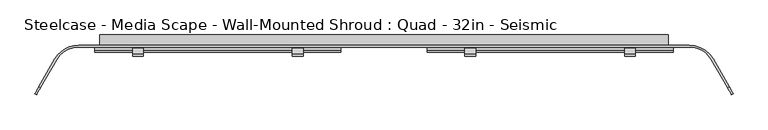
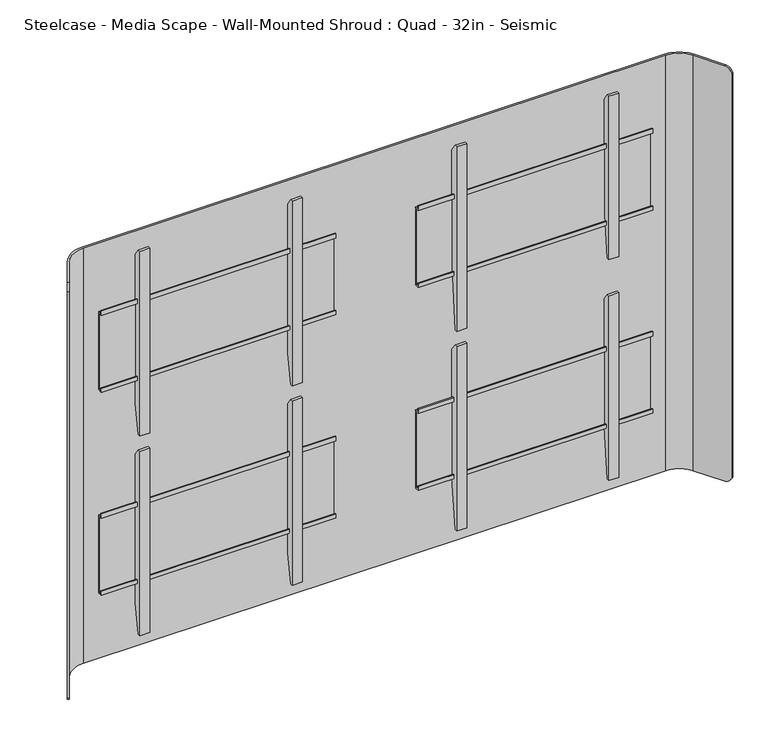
"""IFC4 building model written with IfcOpenShell, lengths in millimetres: furniture geometry, Steelcase - Media Scape - Wall-Mounted Shroud : Quad - 32in - Seismic."""

import ifcopenshell
import ifcopenshell.guid

model = None  # the IFC model being written
_history = None  # IfcOwnerHistory: only IFC2X3 demands one
_inside = {}  # id of a spatial element -> (the spatial element, [elements in it])
_under = {}  # id of a project, library or spatial element -> (it, [spatial elements below it])
_declared = {}  # id of a project -> (the project, [libraries it declares])
_typed = {}  # id of a type object -> (the type object, [elements of that type])
_made_of = {}  # id of a material, layer set ... -> (it, [elements and type objects made of it])


def new_model(schema):
    """Start an empty IFC model of exactly this schema.

    Asked for "IFC4X3", IfcOpenShell would pick the latest addendum, in which some entities
    have other attributes; the version numbers below select the first issue.
    IFC2X3 requires an IfcOwnerHistory on every rooted entity: one is made here for all.
    """
    global model, _history
    if schema == "IFC4X3":
        model = ifcopenshell.file(schema_version=(4, 3, 0, 0))
    else:
        model = ifcopenshell.file(schema=schema)
    _inside.clear()
    _under.clear()
    _declared.clear()
    _typed.clear()
    _made_of.clear()
    _history = None
    if model.schema == "IFC2X3":
        org = make("IfcOrganization", Name="unknown")
        user = make(
            "IfcPersonAndOrganization",
            ThePerson=make("IfcPerson", FamilyName="unknown"),
            TheOrganization=org,
        )
        app = make(
            "IfcApplication",
            ApplicationDeveloper=org,
            Version="unknown",
            ApplicationFullName="unknown",
            ApplicationIdentifier="unknown",
        )
        _history = make(
            "IfcOwnerHistory",
            OwningUser=user,
            OwningApplication=app,
            ChangeAction="ADDED",
            CreationDate=0,
        )
    return model


def make(cls, **values):
    """One entity of the class cls with the attributes given. An attribute that is None is left unset."""
    return model.create_entity(
        cls, **{name: value for name, value in values.items() if value is not None}
    )


def rooted(cls, **values):
    """An entity with a GlobalId (a new one), such as an element, a storey or a relation."""
    return make(cls, GlobalId=ifcopenshell.guid.new(), OwnerHistory=_history, **values)


def si_unit(unit_type, name, prefix=None):
    """IfcSIUnit, for example si_unit("LENGTHUNIT", "METRE", prefix="MILLI")."""
    return make("IfcSIUnit", UnitType=unit_type, Prefix=prefix, Name=name)


def assignment(units):
    """IfcUnitAssignment: the units of a project."""
    return None if units is None else make("IfcUnitAssignment", Units=units)


def point(xyz):
    """IfcCartesianPoint."""
    return None if xyz is None else make("IfcCartesianPoint", Coordinates=xyz)


def direction(xyz):
    """IfcDirection."""
    return None if xyz is None else make("IfcDirection", DirectionRatios=xyz)


def frame(location, z_axis=None, x_axis=None):
    """IfcAxis2Placement3D, a coordinate frame: its origin and axes. An axis left out is left unset."""
    return make(
        "IfcAxis2Placement3D",
        Location=point(location),
        Axis=direction(z_axis),
        RefDirection=direction(x_axis),
    )


def origin():
    """The frame at (0, 0, 0) with its axes left unset."""
    return frame((0.0, 0.0, 0.0))


def place(relative_to, where):
    """IfcLocalPlacement: puts the frame where relative to a parent placement (None: the world)."""
    return make(
        "IfcLocalPlacement", PlacementRelTo=relative_to, RelativePlacement=where
    )


def context(
    kind, dimensions, precision=None, world=None, true_north=None, identifier=None
):
    """IfcGeometricRepresentationContext, for example the 3D "Model" context."""
    return make(
        "IfcGeometricRepresentationContext",
        ContextIdentifier=identifier,
        ContextType=kind,
        CoordinateSpaceDimension=dimensions,
        Precision=precision,
        WorldCoordinateSystem=world,
        TrueNorth=true_north,
    )


def project(units=None, contexts=None):
    """IfcProject with its units and contexts."""
    return rooted(
        "IfcProject",
        Name="project",
        RepresentationContexts=contexts,
        UnitsInContext=assignment(units),
    )


def spatial(cls, under=None, at=None, **own):
    """A site, building, storey or space (cls), placed at a placement, below another one or the project."""
    s = rooted(cls, ObjectPlacement=at, **own)
    if under is not None:
        _under.setdefault(under.id(), (under, []))[1].append(s)
    return s


def polyline(points):
    """IfcPolyline through the points."""
    return make("IfcPolyline", Points=[point(p) for p in points])


def circle_curve(where, radius):
    """IfcCircle in the frame where."""
    return make("IfcCircle", Position=where, Radius=radius)


def outline(outer, holes=None, kind="AREA"):
    """IfcArbitraryClosedProfileDef: a profile drawn as a closed curve; with holes, ...WithVoids."""
    if holes is None:
        return make("IfcArbitraryClosedProfileDef", ProfileType=kind, OuterCurve=outer)
    return make(
        "IfcArbitraryProfileDefWithVoids",
        ProfileType=kind,
        OuterCurve=outer,
        InnerCurves=holes,
    )


def extrude(swept, where, along, depth):
    """IfcExtrudedAreaSolid: the profile swept, set in the frame where, extruded along a direction by depth."""
    return make(
        "IfcExtrudedAreaSolid",
        SweptArea=swept,
        Position=where,
        ExtrudedDirection=direction(along),
        Depth=depth,
    )


def shape(context_of_items, identifier, shape_type, items):
    """IfcShapeRepresentation: the items that make up one representation, for example the "Body"."""
    return make(
        "IfcShapeRepresentation",
        ContextOfItems=context_of_items,
        RepresentationIdentifier=identifier,
        RepresentationType=shape_type,
        Items=items,
    )


def source(mapping_origin, context_of_items, identifier, shape_type, items):
    """IfcRepresentationMap: a shape defined once, which mapped items show again and again."""
    return make(
        "IfcRepresentationMap",
        MappingOrigin=mapping_origin,
        MappedRepresentation=shape(context_of_items, identifier, shape_type, items),
    )


def transform(
    local_origin,
    x_axis=None,
    y_axis=None,
    z_axis=None,
    scale=None,
    scale2=None,
    scale3=None,
    uniform=True,
):
    """IfcCartesianTransformationOperator3D, or its non-uniform kind. x_axis, y_axis, z_axis: its Axis1, 2, 3."""
    if uniform:
        return make(
            "IfcCartesianTransformationOperator3D",
            Axis1=direction(x_axis),
            Axis2=direction(y_axis),
            LocalOrigin=point(local_origin),
            Scale=scale,
            Axis3=direction(z_axis),
        )
    return make(
        "IfcCartesianTransformationOperator3DnonUniform",
        Axis1=direction(x_axis),
        Axis2=direction(y_axis),
        LocalOrigin=point(local_origin),
        Scale=scale,
        Axis3=direction(z_axis),
        Scale2=scale2,
        Scale3=scale3,
    )


def mapped(mapping_source, mapping_target):
    """IfcMappedItem: shows the shape of a source again, moved by a transform."""
    return make(
        "IfcMappedItem", MappingSource=mapping_source, MappingTarget=mapping_target
    )


def made_of(thing, what):
    """Note that an element or type object is made of a material, layer set ...; save() writes the relation."""
    if what is not None:
        _made_of.setdefault(what.id(), (what, []))[1].append(thing)
    return thing


def element(
    cls,
    number,
    at=None,
    inside=None,
    cuts=None,
    type_object=None,
    material=None,
    context=None,
    identifier="Body",
    shape_type=None,
    held_by="IfcProductDefinitionShape",
    body=None,
    shapes=None,
    **own,
):
    """One element of the class cls, such as IfcWall. Its Tag is "e" and its number.

    at: its placement. inside: the storey or other place that contains it. cuts: it is an
    opening in that element (IfcRelVoidsElement). A single representation is given by context,
    identifier, shape_type and body (its items); several are given by shapes. held_by: the class
    of the entity that holds the representations. save() writes the other relations.
    """
    e = rooted(cls, Tag="e%d" % number, ObjectPlacement=at, **own)
    if body is not None:
        shapes = [shape(context, identifier, shape_type, body)]
    if shapes is not None:
        e.Representation = make(held_by, Representations=shapes)
    if inside is not None:
        _inside.setdefault(inside.id(), (inside, []))[1].append(e)
    if cuts is not None:
        rooted(
            "IfcRelVoidsElement", RelatingBuildingElement=cuts, RelatedOpeningElement=e
        )
    if type_object is not None:
        _typed.setdefault(type_object.id(), (type_object, []))[1].append(e)
    return made_of(e, material)


def aggregate(whole, parts):
    """IfcRelAggregates: a whole, such as a stair, and the parts it consists of."""
    return rooted("IfcRelAggregates", RelatingObject=whole, RelatedObjects=parts)


def save(model, path):
    """Write the relations noted so far, then the file.

    IfcRelAggregates (storeys below a building ...), IfcRelContainedInSpatialStructure (elements
    in a storey), IfcRelDefinesByType, IfcRelAssociatesMaterial and IfcRelDeclares: one each for
    every whole, place, type object, material and project.
    """
    for whole, parts in _under.values():
        aggregate(whole, parts)
    for where, things in _inside.values():
        rooted(
            "IfcRelContainedInSpatialStructure",
            RelatedElements=things,
            RelatingStructure=where,
        )
    for kind, things in _typed.values():
        rooted("IfcRelDefinesByType", RelatedObjects=things, RelatingType=kind)
    for what, things in _made_of.values():
        rooted("IfcRelAssociatesMaterial", RelatedObjects=things, RelatingMaterial=what)
    for by, libraries in _declared.values():
        rooted("IfcRelDeclares", RelatingContext=by, RelatedDefinitions=libraries)
    model.write(path)


def plane_surface(at):
    """IfcPlane: the flat surface through the origin of the frame at, square to its z axis."""
    return make("IfcPlane", Position=at)


def cylinder_surface(at, radius):
    """IfcCylindricalSurface: all points at the distance radius from the z axis of the frame at."""
    return make("IfcCylindricalSurface", Position=at, Radius=radius)


def revolved_surface(curve, axis_point, axis_direction):
    """IfcSurfaceOfRevolution: the curve turned about the line through axis_point along axis_direction."""
    return make(
        "IfcSurfaceOfRevolution",
        SweptCurve=make("IfcArbitraryOpenProfileDef", ProfileType="CURVE", Curve=curve),
        AxisPosition=make("IfcAxis1Placement", Location=point(axis_point), Axis=direction(axis_direction)),
    )


def advanced_brep(points, edges, surfaces, faces):
    """IfcAdvancedBrep: a solid bounded by faces that lie on surfaces and meet in shared edges.

    An edge is (start, end): straight between two places in points (the first is 0);
    or (start, end, curve); or (start, end, curve, False) where it runs against its curve.
    A face is (place in surfaces, loops), or (place, loops, False) where it looks against
    its surface's normal. A loop lists edges by number (the first is 1), with a minus sign
    where the edge is run from its end to its start. The first loop is the outer one.
    """
    corners = [point(p) for p in points]
    vertices = [make("IfcVertexPoint", VertexGeometry=c) for c in corners]
    made = []
    for start, end, *more in edges:
        made.append(
            make(
                "IfcEdgeCurve",
                EdgeStart=vertices[start],
                EdgeEnd=vertices[end],
                EdgeGeometry=more[0] if more else make("IfcPolyline", Points=[corners[start], corners[end]]),
                SameSense=more[1] if len(more) > 1 else True,
            )
        )
    hull = []
    for where, loops, *sense in faces:
        bounds = []
        for j, loop in enumerate(loops):
            ring = [make("IfcOrientedEdge", EdgeElement=made[abs(k) - 1], Orientation=k > 0) for k in loop]
            bounds.append(
                make(
                    "IfcFaceOuterBound" if j == 0 else "IfcFaceBound",
                    Bound=make("IfcEdgeLoop", EdgeList=ring),
                    Orientation=True,
                )
            )
        hull.append(make("IfcAdvancedFace", Bounds=bounds, FaceSurface=surfaces[where], SameSense=sense[0] if sense else True))
    return make("IfcAdvancedBrep", Outer=make("IfcClosedShell", CfsFaces=hull))


def steelcase_media_scape_wall_mounted_shroud_quad_32in_seismic_8338c1e4(model_context):
    return source(origin(), model_context, "Body", "SolidModel", [
        extrude(outline(polyline([(-32.6531824, 1366.4960207), (-32.6531824, 1014.7806853), (-46.5069553, 878.7129758), (-53.3399828, 878.7129758), (-53.3399828, 1386.713), (-46.5596063, 1386.713), (-32.6531824, 1366.4960207)])), frame((596.9002868, 0.0, 0.0), z_axis=(1.0, 0.0, 0.0), x_axis=(0.0, 1.0, 0.0)), (0.0, 0.0, 1.0), 26.1592872),
        extrude(outline(polyline([(-32.6531824, 1366.4960207), (-32.6531824, 1014.6814666), (-46.4968533, 878.7129758), (-53.3399828, 878.7129758), (-53.3399828, 1386.713), (-46.5596063, 1386.713), (-32.6531824, 1366.4960207)])), frame((200.662426, 0.0, 0.0), z_axis=(1.0, 0.0, 0.0), x_axis=(0.0, 1.0, 0.0)), (0.0, 0.0, 1.0), 26.1592872),
        extrude(outline(polyline([(-32.6531824, 1366.5753957), (-32.6531824, 956.3408416), (-46.5049349, 878.7129758), (-53.3399828, 878.7129758), (-53.3399828, 1386.713), (-46.5050076, 1386.713), (-32.6531824, 1366.5753957)])), frame((-226.8217132, 0.0, 0.0), z_axis=(1.0, 0.0, 0.0), x_axis=(0.0, 1.0, 0.0)), (0.0, 0.0, 1.0), 26.1592872),
        extrude(outline(polyline([(-32.6531824, 1366.5753957), (-32.6531824, 956.3408416), (-46.5049349, 878.7129758), (-53.3399828, 878.7129758), (-53.3399828, 1386.713), (-46.5050076, 1386.713), (-32.6531824, 1366.5753957)])), frame((-623.059574, 0.0, 0.0), z_axis=(1.0, 0.0, 0.0), x_axis=(0.0, 1.0, 0.0)), (0.0, 0.0, 1.0), 26.1592872),
        extrude(outline(polyline([(-42.4942785, 1227.963), (-42.4942785, 1239.8754512), (-39.8272175, 1239.8754512), (-39.8272175, 1230.5372973), (-29.9720009, 1230.5372973), (-29.9720009, 1016.2849274), (-42.3164551, 1016.2849274), (-42.3164551, 1027.2267789), (-39.649394, 1027.2267789), (-39.649394, 1018.9436302), (-32.6531824, 1018.9436302), (-32.6531824, 1227.963), (-42.4942785, 1227.963)])), frame((107.061, 0.0, 0.0), z_axis=(1.0, 0.0, 0.0), x_axis=(0.0, 1.0, 0.0)), (0.0, 0.0, 1.0), 609.6),
        extrude(outline(polyline([(-42.4942785, 1227.870309), (-42.4942785, 1239.8754512), (-39.8272175, 1239.8754512), (-39.8272175, 1230.5372973), (-29.9720009, 1230.5372973), (-29.9720009, 1016.2849274), (-42.3164551, 1016.2849274), (-42.3164551, 1027.1340878), (-39.649394, 1027.1340878), (-39.649394, 1018.9436302), (-32.6531824, 1018.9436302), (-32.6531824, 1227.870309), (-42.4942785, 1227.870309)])), frame((-716.661, 0.0, 0.0), z_axis=(1.0, 0.0, 0.0), x_axis=(0.0, 1.0, 0.0)), (0.0, 0.0, 1.0), 609.6),
        extrude(outline(polyline([(-42.4942785, 1786.6306215), (-42.4942785, 1798.62487), (-39.8272175, 1798.62487), (-39.8272175, 1789.2777661), (-29.9720009, 1789.2777661), (-29.9720009, 1574.9525488), (-42.3164551, 1574.9525488), (-42.3164551, 1585.8944003), (-39.649394, 1585.8944003), (-39.649394, 1577.6173571), (-32.6531824, 1577.6173571), (-32.6531824, 1786.6306215), (-42.4942785, 1786.6306215)])), frame((107.061, 0.0, 0.0), z_axis=(1.0, 0.0, 0.0), x_axis=(0.0, 1.0, 0.0)), (0.0, 0.0, 1.0), 609.6),
        extrude(outline(polyline([(-32.6531824, 1915.8980449), (-32.6531824, 1622.6027095), (-46.5049349, 1486.5548437), (-53.3399828, 1486.5548437), (-53.3399828, 1936.1150242), (-46.5596063, 1936.1150242), (-32.6531824, 1915.8980449)])), frame((596.9002868, 0.0, 0.0), z_axis=(1.0, 0.0, 0.0), x_axis=(0.0, 1.0, 0.0)), (0.0, 0.0, 1.0), 26.1592872),
        extrude(outline(polyline([(-32.6531824, 1915.8980449), (-32.6531824, 1622.5034908), (-46.4968533, 1428.115), (-53.3399828, 1428.115), (-53.3399828, 1936.1150242), (-46.5596063, 1936.1150242), (-32.6531824, 1915.8980449)])), frame((200.662426, 0.0, 0.0), z_axis=(1.0, 0.0, 0.0), x_axis=(0.0, 1.0, 0.0)), (0.0, 0.0, 1.0), 26.1592872),
        extrude(outline(polyline([(-42.4942785, 1786.6107777), (-42.4942785, 1798.62487), (-39.8272175, 1798.62487), (-39.8272175, 1789.2777661), (-29.9720009, 1789.2777661), (-29.9720009, 1574.9525488), (-42.3164551, 1574.9525488), (-42.3164551, 1585.8745566), (-39.649394, 1585.8745566), (-39.649394, 1577.6173571), (-32.6531824, 1577.6173571), (-32.6531824, 1786.6107777), (-42.4942785, 1786.6107777)])), frame((-716.661, 0.0, 0.0), z_axis=(1.0, 0.0, 0.0), x_axis=(0.0, 1.0, 0.0)), (0.0, 0.0, 1.0), 609.6),
        extrude(outline(polyline([(-32.6531824, 1915.9774199), (-32.6531824, 1505.7428658), (-46.5049349, 1428.115), (-53.3399828, 1428.115), (-53.3399828, 1936.1150242), (-46.5050076, 1936.1150242), (-32.6531824, 1915.9774199)])), frame((-226.8217132, 0.0, 0.0), z_axis=(1.0, 0.0, 0.0), x_axis=(0.0, 1.0, 0.0)), (0.0, 0.0, 1.0), 26.1592872),
        extrude(outline(polyline([(-32.6531824, 1915.9774199), (-32.6531824, 1505.7428658), (-46.5049349, 1428.115), (-53.3399828, 1428.115), (-53.3399828, 1936.1150242), (-46.5050076, 1936.1150242), (-32.6531824, 1915.9774199)])), frame((-623.059574, 0.0, 0.0), z_axis=(1.0, 0.0, 0.0), x_axis=(0.0, 1.0, 0.0)), (0.0, 0.0, 1.0), 26.1592872),
        extrude(outline(polyline([(704.85, -25.4), (-704.85, -25.4), (-704.85, 0.0), (704.85, 0.0), (704.85, -25.4)])), frame((0.0, 0.0, 835.914), z_axis=(0.0, 0.0, 1.0), x_axis=(1.0, 0.0, 0.0)), (0.0, 0.0, 1.0), 76.2508167),
        advanced_brep(
        [(-811.6586135, -61.722, 1978.914), (-756.666002, -29.9720009, 1978.914), (756.666, -29.9720009, 1978.914), (811.6586135, -61.722, 1978.914), (851.779586, -131.2135628, 1978.914), (855.7390541, -128.9275628, 1978.914), (815.6180817, -59.436, 1978.914), (756.666002, -25.4, 1978.914), (-756.666, -25.4, 1978.914), (-815.6180817, -59.436, 1978.914), (-855.7421659, -128.9329524, 1978.914), (-851.7826977, -131.2189524, 1978.914), (-815.6180817, -59.436, 835.914), (-756.666002, -25.4, 835.914), (756.666, -25.4, 835.914), (815.6180817, -59.436, 835.914), (855.7906629, -129.0169518, 835.914), (851.8311948, -131.3029518, 835.914), (811.6586135, -61.722, 835.914), (756.666002, -29.9720009, 835.914), (-756.666, -29.9720009, 835.914), (-811.6586135, -61.722, 835.914), (-851.8454014, -131.3275584, 835.914), (-855.8048695, -129.0415584, 835.914), (-865.3090632, -145.5033047, 849.5242766), (-865.3090632, -145.5033047, 1964.9227735), (-861.3495951, -147.7893047, 1964.9227735), (-861.3495951, -147.7893047, 849.5242766), (861.3270866, -147.7503189, 849.4756893), (861.3270866, -147.7503189, 1965.0433849), (865.2865547, -145.4643189, 1965.0433849), (865.2865547, -145.4643189, 849.4756893)],
        [
            (0, 1, circle_curve(frame((-756.666002, -93.4719991, 1978.914), z_axis=(0.0, 0.0, -1.0), x_axis=(0.0, 1.0, 0.0)), 63.4999981)),
            (1, 2),
            (2, 3, circle_curve(frame((756.666002, -93.4719991, 1978.914), z_axis=(0.0, 0.0, -1.0), x_axis=(0.0, 1.0, 0.0)), 63.4999981)),
            (3, 4),
            (4, 5),
            (5, 6),
            (6, 7, circle_curve(frame((756.6660004, -93.472, 1978.914), z_axis=(0.0, 0.0, 1.0), x_axis=(0.0, 1.0, 0.0)), 68.072)),
            (7, 8),
            (8, 9, circle_curve(frame((-756.6660004, -93.472, 1978.914), z_axis=(0.0, 0.0, 1.0), x_axis=(0.0, 1.0, 0.0)), 68.072)),
            (9, 10),
            (10, 11),
            (11, 0),
            (12, 13, circle_curve(frame((-756.6660004, -93.472, 835.914), z_axis=(0.0, 0.0, -1.0), x_axis=(0.0, 1.0, 0.0)), 68.072)),
            (13, 14),
            (14, 15, circle_curve(frame((756.6660004, -93.472, 835.914), z_axis=(0.0, 0.0, -1.0), x_axis=(0.0, 1.0, 0.0)), 68.072)),
            (15, 16),
            (16, 17),
            (17, 18),
            (18, 19, circle_curve(frame((756.666002, -93.4719991, 835.914), z_axis=(0.0, 0.0, 1.0), x_axis=(0.0, 1.0, 0.0)), 63.4999981)),
            (19, 20),
            (20, 21, circle_curve(frame((-756.666002, -93.4719991, 835.914), z_axis=(0.0, 0.0, 1.0), x_axis=(0.0, 1.0, 0.0)), 63.4999981)),
            (21, 22),
            (22, 23),
            (23, 12),
            (0, 21),
            (20, 1),
            (8, 13),
            (12, 9),
            (23, 24, circle_curve(frame((-855.8048695, -129.0415584, 855.9928872), z_axis=(-0.8660254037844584, 0.49999999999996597, 0.0), x_axis=(-0.49999999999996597, -0.8660254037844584, 0.0)), 20.0788872)),
            (24, 25),
            (25, 10, circle_curve(frame((-855.7421659, -128.9329524, 1958.8351128), z_axis=(-0.8660254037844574, 0.4999999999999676, 0.0), x_axis=(-0.4999999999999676, -0.8660254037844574, 0.0)), 20.0788872)),
            (26, 25),
            (24, 27),
            (27, 26),
            (11, 26, circle_curve(frame((-851.7826977, -131.2189524, 1958.8351128), z_axis=(0.8660254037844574, -0.4999999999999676, 0.0), x_axis=(-0.4999999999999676, -0.8660254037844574, 0.0)), 20.0788872)),
            (27, 22, circle_curve(frame((-851.8454014, -131.3275584, 855.9928872), z_axis=(0.8660254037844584, -0.49999999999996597, 0.0), x_axis=(-0.49999999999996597, -0.8660254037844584, 0.0)), 20.0788872)),
            (7, 14),
            (19, 2),
            (3, 18),
            (17, 28, circle_curve(frame((851.8311948, -131.3029518, 855.9928872), z_axis=(-0.8660254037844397, -0.49999999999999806, 0.0), x_axis=(0.49999999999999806, -0.8660254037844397, 0.0)), 20.0788872)),
            (28, 29),
            (29, 4, circle_curve(frame((851.779586, -131.2135628, 1958.8351128), z_axis=(-0.8660254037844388, -0.4999999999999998, 0.0), x_axis=(0.4999999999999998, -0.8660254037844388, 0.0)), 20.0788872)),
            (30, 29),
            (28, 31),
            (31, 30),
            (15, 6),
            (5, 30, circle_curve(frame((855.7390541, -128.9275628, 1958.8351128), z_axis=(0.8660254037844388, 0.4999999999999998, 0.0), x_axis=(0.4999999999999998, -0.8660254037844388, 0.0)), 20.0788872)),
            (31, 16, circle_curve(frame((855.7906629, -129.0169518, 855.9928872), z_axis=(0.8660254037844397, 0.49999999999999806, 0.0), x_axis=(0.49999999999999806, -0.8660254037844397, 0.0)), 20.0788872)),
        ],
        [
            plane_surface(frame((-756.666002, -29.9720009, 1978.914), z_axis=(0.0, 0.0, 1.0), x_axis=(1.0, 0.0, 0.0))),
            plane_surface(frame((-756.666002, -29.9720009, 835.914), z_axis=(0.0, 0.0, -1.0), x_axis=(-1.0, 0.0, 0.0))),
            revolved_surface(polyline([(-756.666002, -29.972001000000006, 835.914), (-756.666002, -29.972001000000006, 1978.914)]), (-756.666002, -93.4719991, 835.914), (0.0, 0.0, -1.0)),
            cylinder_surface(frame((-756.6660004, -93.472, 835.914), z_axis=(0.0, 0.0, 1.0), x_axis=(0.0, 1.0, 0.0)), 68.072),
            plane_surface(frame((-815.6180817, -59.436, 1978.914), z_axis=(-0.8660254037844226, 0.5000000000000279, 0.0), x_axis=(0.0, 0.0, -1.0))),
            plane_surface(frame((-865.3090632, -145.5033047, 1978.914), z_axis=(-0.5000000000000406, -0.8660254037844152, 0.0), x_axis=(0.0, 0.0, -1.0))),
            plane_surface(frame((-861.3495951, -147.7893047, 1978.914), z_axis=(0.8660254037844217, -0.5000000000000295, 0.0), x_axis=(0.0, 0.0, -1.0))),
            plane_surface(frame((756.666, -25.4, 1978.914), z_axis=(0.0, 1.0, 0.0), x_axis=(0.0, 0.0, -1.0))),
            plane_surface(frame((-756.666, -29.9720009, 1978.914), z_axis=(0.0, -1.0, 0.0), x_axis=(0.0, 0.0, -1.0))),
            plane_surface(frame((811.6586135, -61.722, 1978.914), z_axis=(-0.8660254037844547, -0.4999999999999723, 0.0), x_axis=(0.0, 0.0, -1.0))),
            plane_surface(frame((861.3270866, -147.7503189, 1978.914), z_axis=(0.4999999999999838, -0.866025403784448, 0.0), x_axis=(0.0, 0.0, -1.0))),
            plane_surface(frame((865.2865547, -145.4643189, 1978.914), z_axis=(0.8660254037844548, 0.49999999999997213, 0.0), x_axis=(0.0, 0.0, -1.0))),
            cylinder_surface(frame((756.6660004, -93.472, 835.914), z_axis=(0.0, 0.0, 1.0), x_axis=(0.0, 1.0, 0.0)), 68.072),
            revolved_surface(polyline([(756.666002, -29.972001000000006, 835.914), (756.666002, -29.972001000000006, 1978.914)]), (756.666002, -93.4719991, 835.914), (0.0, 0.0, -1.0)),
            cylinder_surface(frame((-851.7826977, -131.2189524, 1958.8351128), z_axis=(0.8660254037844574, -0.4999999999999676, 0.0), x_axis=(-0.4999999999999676, -0.8660254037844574, 0.0)), 20.0788872),
            cylinder_surface(frame((-851.8454014, -131.3275584, 855.9928872), z_axis=(0.8660254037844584, -0.49999999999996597, 0.0), x_axis=(-0.49999999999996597, -0.8660254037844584, 0.0)), 20.0788872),
            cylinder_surface(frame((866.8864297, -122.4916225, 1958.8351128), z_axis=(0.8660254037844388, 0.4999999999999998, 0.0), x_axis=(0.4999999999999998, -0.8660254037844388, 0.0)), 20.0788872),
            cylinder_surface(frame((864.0789695, -124.2316958, 855.9928872), z_axis=(0.8660254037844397, 0.49999999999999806, 0.0), x_axis=(0.49999999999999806, -0.8660254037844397, 0.0)), 20.0788872),
        ],
        [
            (0, [[1, 2, 3, 4, 5, 6, 7, 8, 9, 10, 11, 12]]),
            (1, [[13, 14, 15, 16, 17, 18, 19, 20, 21, 22, 23, 24]]),
            (2, [[-1, 25, -21, 26]]),
            (3, [[-9, 27, -13, 28]]),
            (4, [[-28, -24, 29, 30, 31, -10]]),
            (5, [[32, -30, 33, 34]]),
            (6, [[-25, -12, 35, -34, 36, -22]]),
            (7, [[-8, 37, -14, -27]]),
            (8, [[-2, -26, -20, 38]]),
            (9, [[39, -18, 40, 41, 42, -4]]),
            (10, [[43, -41, 44, 45]]),
            (11, [[46, -6, 47, -45, 48, -16]]),
            (12, [[-7, -46, -15, -37]]),
            (13, [[-3, -38, -19, -39]]),
            (14, [[-11, -31, -32, -35]]),
            (15, [[-23, -36, -33, -29]]),
            (16, [[-5, -42, -43, -47]]),
            (17, [[-17, -48, -44, -40]]),
        ],
    ),
        extrude(outline(polyline([(912.1648167, 641.3499879), (912.1648167, 704.85), (1902.714, 704.85), (1902.714, -704.85), (912.1648167, -704.85), (912.1648167, -642.3433465), (1839.2139516, -642.3433465), (1839.2139516, 641.3499879), (912.1648167, 641.3499879)])), frame((0.0, -25.4, 0.0), z_axis=(0.0, 1.0, 0.0), x_axis=(0.0, 0.0, 1.0)), (0.0, 0.0, 1.0), 25.4),
    ])


if __name__ == "__main__":
    model = new_model("IFC4")
    model_context = context("Model", 3, world=origin())
    ifc_project = project(units=[si_unit("LENGTHUNIT", "METRE", prefix="MILLI")], contexts=[model_context])
    site = spatial("IfcSite", under=ifc_project)
    building = spatial("IfcBuilding", under=site)
    placement = place(None, origin())
    steelcase_media_scape_wall_mounted_shroud_quad_32in_seismic_shape = steelcase_media_scape_wall_mounted_shroud_quad_32in_seismic_8338c1e4(model_context)
    element("IfcFurniture", 1, ObjectType="Steelcase - Media Scape - Wall-Mounted Shroud : Quad - 32in - Seismic", at=placement, inside=building, context=model_context, shape_type="MappedRepresentation", body=[
        mapped(steelcase_media_scape_wall_mounted_shroud_quad_32in_seismic_shape, transform((0.0, 0.0, 0.0), x_axis=(1.0, 0.0, 0.0), y_axis=(0.0, 1.0, 0.0), z_axis=(0.0, 0.0, 1.0))),
    ])
    save(model, "model.ifc")
